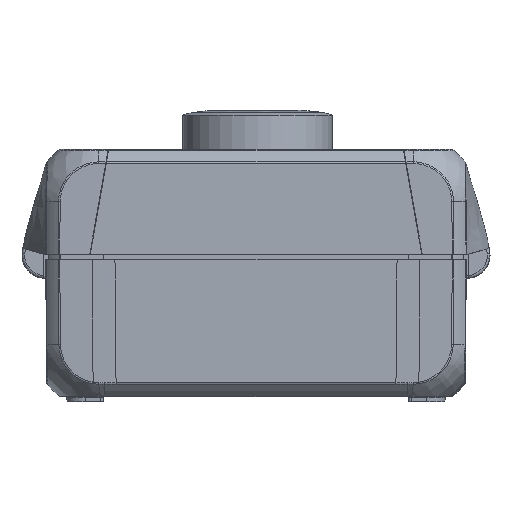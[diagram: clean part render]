
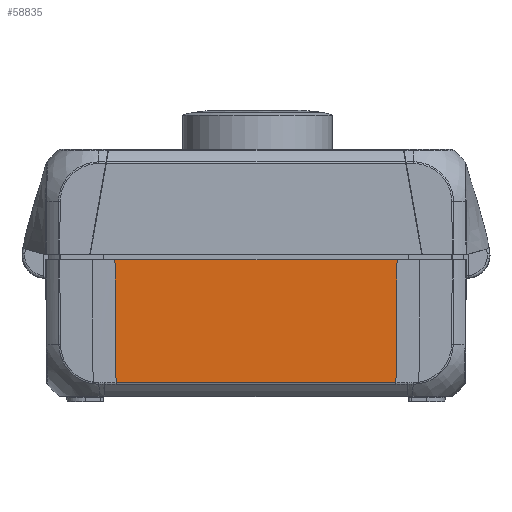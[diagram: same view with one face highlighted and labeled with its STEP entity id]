
A CAD part, front view. The second image highlights one B-rep face of the part: STEP entity #58835.
In plain terms, the highlighted planar face has unit normal (0, -1, -0.009).
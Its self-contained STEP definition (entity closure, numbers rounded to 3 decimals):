
#3917=PLANE('',#62713);
#5751=FACE_OUTER_BOUND('',#9114,.T.);
#9114=EDGE_LOOP('',(#39965,#39966,#39967,#39968));
#12583=LINE('',#86901,#17560);
#12629=LINE('',#101652,#17606);
#12711=LINE('',#103016,#17688);
#12712=LINE('',#103017,#17689);
#17560=VECTOR('',#68938,53.636);
#17606=VECTOR('',#69232,53.229);
#17688=VECTOR('',#69534,23.328);
#17689=VECTOR('',#69535,23.328);
#23888=VERTEX_POINT('',#86898);
#23889=VERTEX_POINT('',#86900);
#23960=VERTEX_POINT('',#101646);
#23961=VERTEX_POINT('',#101650);
#29747=EDGE_CURVE('',#23889,#23888,#12583,.T.);
#29899=EDGE_CURVE('',#23961,#23960,#12629,.T.);
#30014=EDGE_CURVE('',#23889,#23961,#12711,.T.);
#30015=EDGE_CURVE('',#23960,#23888,#12712,.T.);
#39965=ORIENTED_EDGE('',*,*,#29899,.F.);
#39966=ORIENTED_EDGE('',*,*,#30014,.F.);
#39967=ORIENTED_EDGE('',*,*,#29747,.T.);
#39968=ORIENTED_EDGE('',*,*,#30015,.F.);
#58835=ADVANCED_FACE('',(#5751),#3917,.T.);
#62713=AXIS2_PLACEMENT_3D('',#103015,#69532,#69533);
#68938=DIRECTION('',(-1.,0.,0.));
#69232=DIRECTION('',(-1.,0.,0.));
#69532=DIRECTION('center_axis',(0.,-1.,
-0.009));
#69533=DIRECTION('ref_axis',(0.,0.009,-1.));
#69534=DIRECTION('',(-0.009,0.009,-1.));
#69535=DIRECTION('',(-0.009,-0.009,1.));
#86898=CARTESIAN_POINT('',(-17.111,-14.975,-22.499));
#86900=CARTESIAN_POINT('',(36.525,-14.975,-22.499));
#86901=CARTESIAN_POINT('',(36.525,-14.975,-22.499));
#101646=CARTESIAN_POINT('',(-16.908,-14.772,-45.825));
#101650=CARTESIAN_POINT('',(36.322,-14.772,-45.825));
#101652=CARTESIAN_POINT('',(36.322,-14.772,-45.825));
#103015=CARTESIAN_POINT('Origin',(49.707,-14.748,-48.498));
#103016=CARTESIAN_POINT('',(36.525,-14.975,-22.499));
#103017=CARTESIAN_POINT('',(-16.908,-14.772,-45.825));
